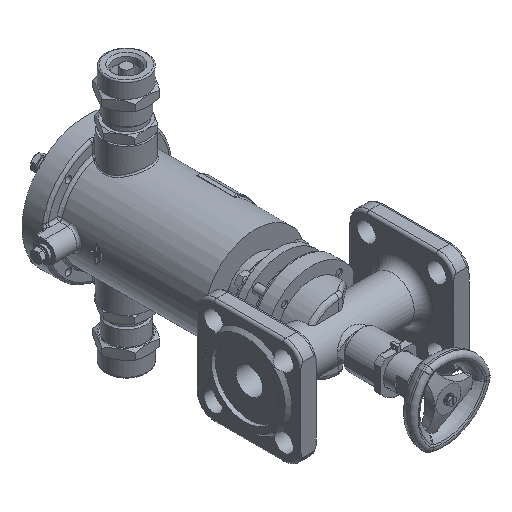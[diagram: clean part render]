
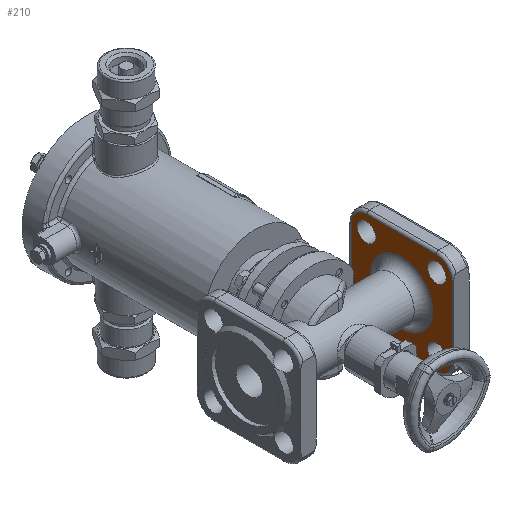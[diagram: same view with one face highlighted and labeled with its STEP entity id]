
A CAD part, isometric view. The second image highlights one B-rep face of the part: STEP entity #210.
In plain terms, the highlighted planar face has unit normal (-1, 0, 0).
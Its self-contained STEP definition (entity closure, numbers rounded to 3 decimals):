
#210=ADVANCED_FACE('',(#6742,#6744,#6746,#6748,#6750,#6752),#6754,.T.);
#6742=FACE_BOUND('',#6743,.T.);
#6743=EDGE_LOOP('',(#23115));
#6744=FACE_BOUND('',#6745,.T.);
#6745=EDGE_LOOP('',(#23116));
#6746=FACE_BOUND('',#6747,.T.);
#6747=EDGE_LOOP('',(#23117));
#6748=FACE_BOUND('',#6749,.T.);
#6749=EDGE_LOOP('',(#23118));
#6750=FACE_BOUND('',#6751,.T.);
#6751=EDGE_LOOP('',(#23119));
#6752=FACE_OUTER_BOUND('',#6753,.T.);
#6753=EDGE_LOOP('',(#23120,#23121,#23122,#23123,#23124,#23125,#23126,#23127));
#6754=PLANE('',#6755);
#6755=AXIS2_PLACEMENT_3D('',#6756,#6757,#6758);
#6756=CARTESIAN_POINT('',(51.5,0.,0.));
#6757=DIRECTION('',(-1.,-0.,-0.));
#6758=DIRECTION('',(0.,1.,0.));
#23115=ORIENTED_EDGE('',*,*,#37113,.T.);
#23116=ORIENTED_EDGE('',*,*,#37114,.T.);
#23117=ORIENTED_EDGE('',*,*,#37115,.T.);
#23118=ORIENTED_EDGE('',*,*,#37116,.T.);
#23119=ORIENTED_EDGE('',*,*,#37034,.T.);
#23120=ORIENTED_EDGE('',*,*,#37117,.T.);
#23121=ORIENTED_EDGE('',*,*,#37118,.T.);
#23122=ORIENTED_EDGE('',*,*,#37119,.T.);
#23123=ORIENTED_EDGE('',*,*,#37120,.T.);
#23124=ORIENTED_EDGE('',*,*,#37121,.T.);
#23125=ORIENTED_EDGE('',*,*,#37122,.T.);
#23126=ORIENTED_EDGE('',*,*,#37123,.T.);
#23127=ORIENTED_EDGE('',*,*,#37124,.T.);
#37034=EDGE_CURVE('',#42265,#42265,#42266,.T.);
#37113=EDGE_CURVE('',#42387,#42387,#42388,.T.);
#37114=EDGE_CURVE('',#42389,#42389,#42390,.T.);
#37115=EDGE_CURVE('',#42391,#42391,#42392,.T.);
#37116=EDGE_CURVE('',#42393,#42393,#42394,.T.);
#37117=EDGE_CURVE('',#42395,#42396,#42397,.F.);
#37118=EDGE_CURVE('',#42396,#42398,#42399,.T.);
#37119=EDGE_CURVE('',#42398,#42400,#42401,.F.);
#37120=EDGE_CURVE('',#42400,#42402,#42403,.T.);
#37121=EDGE_CURVE('',#42402,#42404,#42405,.F.);
#37122=EDGE_CURVE('',#42404,#42406,#42407,.T.);
#37123=EDGE_CURVE('',#42406,#42408,#42409,.F.);
#37124=EDGE_CURVE('',#42408,#42395,#42410,.T.);
#42265=VERTEX_POINT('',#51898);
#42266=CIRCLE('',#51899,23.5);
#42387=VERTEX_POINT('',#53448);
#42388=CIRCLE('',#53449,7.);
#42389=VERTEX_POINT('',#53453);
#42390=CIRCLE('',#53454,7.);
#42391=VERTEX_POINT('',#53458);
#42392=CIRCLE('',#53459,7.);
#42393=VERTEX_POINT('',#53463);
#42394=CIRCLE('',#53464,7.);
#42395=VERTEX_POINT('',#53468);
#42396=VERTEX_POINT('',#53469);
#42397=LINE('',#53470,#53471);
#42398=VERTEX_POINT('',#53473);
#42399=CIRCLE('',#53474,12.);
#42400=VERTEX_POINT('',#53478);
#42401=LINE('',#53479,#53480);
#42402=VERTEX_POINT('',#53482);
#42403=CIRCLE('',#53483,12.);
#42404=VERTEX_POINT('',#53487);
#42405=LINE('',#53488,#53489);
#42406=VERTEX_POINT('',#53491);
#42407=CIRCLE('',#53492,12.);
#42408=VERTEX_POINT('',#53496);
#42409=LINE('',#53497,#53498);
#42410=CIRCLE('',#53500,12.);
#51898=CARTESIAN_POINT('',(51.5,23.5,0.));
#51899=AXIS2_PLACEMENT_3D('',#51900,#51901,#51902);
#51900=CARTESIAN_POINT('',(51.5,0.,0.));
#51901=DIRECTION('',(1.,0.,0.));
#51902=DIRECTION('',(0.,1.,0.));
#53448=CARTESIAN_POINT('',(51.5,-26.517,-19.517));
#53449=AXIS2_PLACEMENT_3D('',#53450,#53451,#53452);
#53450=CARTESIAN_POINT('',(51.5,-26.517,-26.517));
#53451=DIRECTION('',(1.,0.,0.));
#53452=DIRECTION('',(0.,0.,1.));
#53453=CARTESIAN_POINT('',(51.5,26.517,-19.517));
#53454=AXIS2_PLACEMENT_3D('',#53455,#53456,#53457);
#53455=CARTESIAN_POINT('',(51.5,26.517,-26.517));
#53456=DIRECTION('',(1.,0.,0.));
#53457=DIRECTION('',(0.,0.,1.));
#53458=CARTESIAN_POINT('',(51.5,26.517,33.517));
#53459=AXIS2_PLACEMENT_3D('',#53460,#53461,#53462);
#53460=CARTESIAN_POINT('',(51.5,26.517,26.517));
#53461=DIRECTION('',(1.,0.,0.));
#53462=DIRECTION('',(0.,0.,1.));
#53463=CARTESIAN_POINT('',(51.5,-26.517,33.517));
#53464=AXIS2_PLACEMENT_3D('',#53465,#53466,#53467);
#53465=CARTESIAN_POINT('',(51.5,-26.517,26.517));
#53466=DIRECTION('',(1.,0.,0.));
#53467=DIRECTION('',(0.,0.,1.));
#53468=CARTESIAN_POINT('',(51.5,38.,26.));
#53469=CARTESIAN_POINT('',(51.5,38.,-26.));
#53470=CARTESIAN_POINT('',(51.5,38.,-26.));
#53471=VECTOR('',#53472,1.);
#53472=DIRECTION('',(0.,0.,1.));
#53473=CARTESIAN_POINT('',(51.5,26.,-38.));
#53474=AXIS2_PLACEMENT_3D('',#53475,#53476,#53477);
#53475=CARTESIAN_POINT('',(51.5,26.,-26.));
#53476=DIRECTION('',(-1.,0.,0.));
#53477=DIRECTION('',(0.,1.,0.));
#53478=CARTESIAN_POINT('',(51.5,-26.,-38.));
#53479=CARTESIAN_POINT('',(51.5,-26.,-38.));
#53480=VECTOR('',#53481,1.);
#53481=DIRECTION('',(0.,1.,0.));
#53482=CARTESIAN_POINT('',(51.5,-38.,-26.));
#53483=AXIS2_PLACEMENT_3D('',#53484,#53485,#53486);
#53484=CARTESIAN_POINT('',(51.5,-26.,-26.));
#53485=DIRECTION('',(-1.,0.,-0.));
#53486=DIRECTION('',(0.,0.,-1.));
#53487=CARTESIAN_POINT('',(51.5,-38.,26.));
#53488=CARTESIAN_POINT('',(51.5,-38.,26.));
#53489=VECTOR('',#53490,1.);
#53490=DIRECTION('',(0.,0.,-1.));
#53491=CARTESIAN_POINT('',(51.5,-26.,38.));
#53492=AXIS2_PLACEMENT_3D('',#53493,#53494,#53495);
#53493=CARTESIAN_POINT('',(51.5,-26.,26.));
#53494=DIRECTION('',(-1.,-0.,0.));
#53495=DIRECTION('',(0.,-1.,0.));
#53496=CARTESIAN_POINT('',(51.5,26.,38.));
#53497=CARTESIAN_POINT('',(51.5,26.,38.));
#53498=VECTOR('',#53499,1.);
#53499=DIRECTION('',(0.,-1.,0.));
#53500=AXIS2_PLACEMENT_3D('',#53501,#53502,#53503);
#53501=CARTESIAN_POINT('',(51.5,26.,26.));
#53502=DIRECTION('',(-1.,0.,0.));
#53503=DIRECTION('',(0.,0.,1.));
